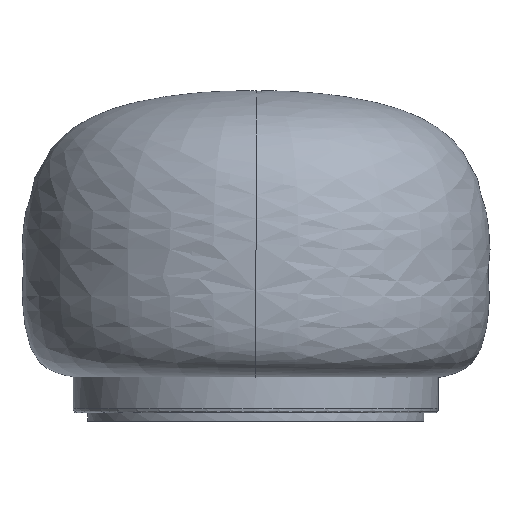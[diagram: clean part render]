
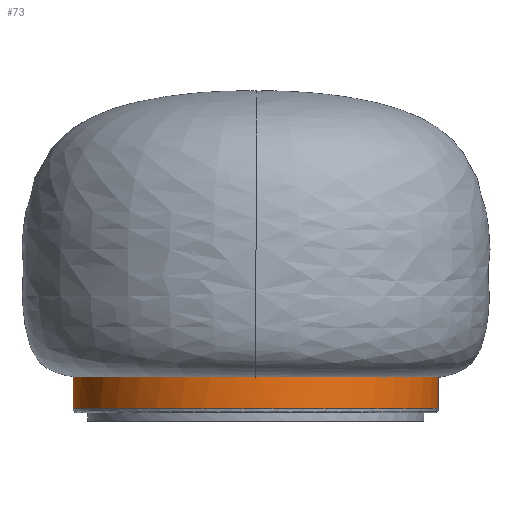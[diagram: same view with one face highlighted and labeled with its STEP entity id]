
A CAD part, left-side view. The second image highlights one B-rep face of the part: STEP entity #73.
In plain terms, the highlighted free-form (B-spline) face has degree [2, 1] with [9, 2] control points.
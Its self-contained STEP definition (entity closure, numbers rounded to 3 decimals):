
#73=ADVANCED_FACE('',(#114),#633,.T.);
#114=FACE_OUTER_BOUND('',#164,.T.);
#164=EDGE_LOOP('',(#287,#288,#289,#290));
#287=ORIENTED_EDGE('',*,*,#434,.F.);
#288=ORIENTED_EDGE('',*,*,#436,.T.);
#289=ORIENTED_EDGE('',*,*,#435,.F.);
#290=ORIENTED_EDGE('',*,*,#437,.T.);
#434=EDGE_CURVE('',#585,#589,#674,.T.);
#435=EDGE_CURVE('',#588,#582,#675,.T.);
#436=EDGE_CURVE('',#585,#582,#503,.T.);
#437=EDGE_CURVE('',#588,#589,#504,.T.);
#503=(
BOUNDED_CURVE()
B_SPLINE_CURVE(2,(#11565,#11566,#11567,#11568,#11569),.UNSPECIFIED.,.F.,
 .F.)
B_SPLINE_CURVE_WITH_KNOTS((3,2,3),(0.,550.,1100.),
 .UNSPECIFIED.)
CURVE()
GEOMETRIC_REPRESENTATION_ITEM()
RATIONAL_B_SPLINE_CURVE((1.,0.707,1.,0.707,1.))
REPRESENTATION_ITEM('')
);
#504=(
BOUNDED_CURVE()
B_SPLINE_CURVE(2,(#11570,#11571,#11572,#11573,#11574),.UNSPECIFIED.,.F.,
 .F.)
B_SPLINE_CURVE_WITH_KNOTS((3,2,3),(0.,550.,1100.),
 .UNSPECIFIED.)
CURVE()
GEOMETRIC_REPRESENTATION_ITEM()
RATIONAL_B_SPLINE_CURVE((1.,0.707,1.,0.707,1.))
REPRESENTATION_ITEM('')
);
#582=VERTEX_POINT('',#11345);
#585=VERTEX_POINT('',#11348);
#588=VERTEX_POINT('',#11351);
#589=VERTEX_POINT('',#11352);
#633=(
BOUNDED_SURFACE()
B_SPLINE_SURFACE(2,1,((#10929,#10930),(#10931,#10932),(#10933,#10934),(#10935,
#10936),(#10937,#10938),(#10939,#10940),(#10941,#10942),(#10943,#10944),
(#10945,#10946)),.UNSPECIFIED.,.T.,.F.,.F.)
B_SPLINE_SURFACE_WITH_KNOTS((3,2,2,2,3),(2,2),(0.,431.969,863.938,
1295.907,1727.876),(0.,48.002),.UNSPECIFIED.)
GEOMETRIC_REPRESENTATION_ITEM()
RATIONAL_B_SPLINE_SURFACE(((1.,1.),(0.707,0.707),
(1.,1.),(0.707,0.707),(1.,1.),(0.707,
0.707),(1.,1.),(0.707,0.707),(1.,1.)))
REPRESENTATION_ITEM('')
SURFACE()
);
#674=B_SPLINE_CURVE_WITH_KNOTS('',1,(#11561,#11562),.UNSPECIFIED.,.F.,.F.,
(2,2),(0.,40.),.UNSPECIFIED.);
#675=B_SPLINE_CURVE_WITH_KNOTS('',1,(#11563,#11564),.UNSPECIFIED.,.F.,.F.,
(2,2),(0.,40.),.UNSPECIFIED.);
#10929=CARTESIAN_POINT('',(21035.726,1499.224,64.271));
#10930=CARTESIAN_POINT('',(21035.697,1499.229,12.013));
#10931=CARTESIAN_POINT('',(21035.726,1265.295,64.295));
#10932=CARTESIAN_POINT('',(21035.697,1265.3,12.038));
#10933=CARTESIAN_POINT('',(20800.563,1265.295,64.152));
#10934=CARTESIAN_POINT('',(20800.533,1265.3,11.894));
#10935=CARTESIAN_POINT('',(20565.399,1265.295,64.009));
#10936=CARTESIAN_POINT('',(20565.369,1265.3,11.751));
#10937=CARTESIAN_POINT('',(20565.399,1499.225,63.984));
#10938=CARTESIAN_POINT('',(20565.369,1499.23,11.727));
#10939=CARTESIAN_POINT('',(20565.398,1733.154,63.96));
#10940=CARTESIAN_POINT('',(20565.369,1733.159,11.703));
#10941=CARTESIAN_POINT('',(20800.562,1733.154,64.103));
#10942=CARTESIAN_POINT('',(20800.533,1733.159,11.846));
#10943=CARTESIAN_POINT('',(21035.726,1733.153,64.247));
#10944=CARTESIAN_POINT('',(21035.696,1733.158,11.989));
#10945=CARTESIAN_POINT('',(21035.726,1499.224,64.271));
#10946=CARTESIAN_POINT('',(21035.697,1499.229,12.013));
#11345=CARTESIAN_POINT('',(20800.56,1733.154,59.748));
#11348=CARTESIAN_POINT('',(20800.56,1265.296,59.796));
#11351=CARTESIAN_POINT('',(20800.535,1733.158,16.202));
#11352=CARTESIAN_POINT('',(20800.535,1265.3,16.25));
#11561=CARTESIAN_POINT('',(20800.56,1265.296,59.796));
#11562=CARTESIAN_POINT('',(20800.535,1265.3,16.25));
#11563=CARTESIAN_POINT('',(20800.535,1733.158,16.202));
#11564=CARTESIAN_POINT('',(20800.56,1733.154,59.748));
#11565=CARTESIAN_POINT('',(20800.56,1265.296,59.796));
#11566=CARTESIAN_POINT('',(20565.396,1265.296,59.653));
#11567=CARTESIAN_POINT('',(20565.396,1499.225,59.629));
#11568=CARTESIAN_POINT('',(20565.396,1733.154,59.604));
#11569=CARTESIAN_POINT('',(20800.56,1733.154,59.748));
#11570=CARTESIAN_POINT('',(20800.535,1733.158,16.202));
#11571=CARTESIAN_POINT('',(20565.371,1733.158,16.059));
#11572=CARTESIAN_POINT('',(20565.371,1499.229,16.083));
#11573=CARTESIAN_POINT('',(20565.372,1265.3,16.107));
#11574=CARTESIAN_POINT('',(20800.535,1265.3,16.25));
